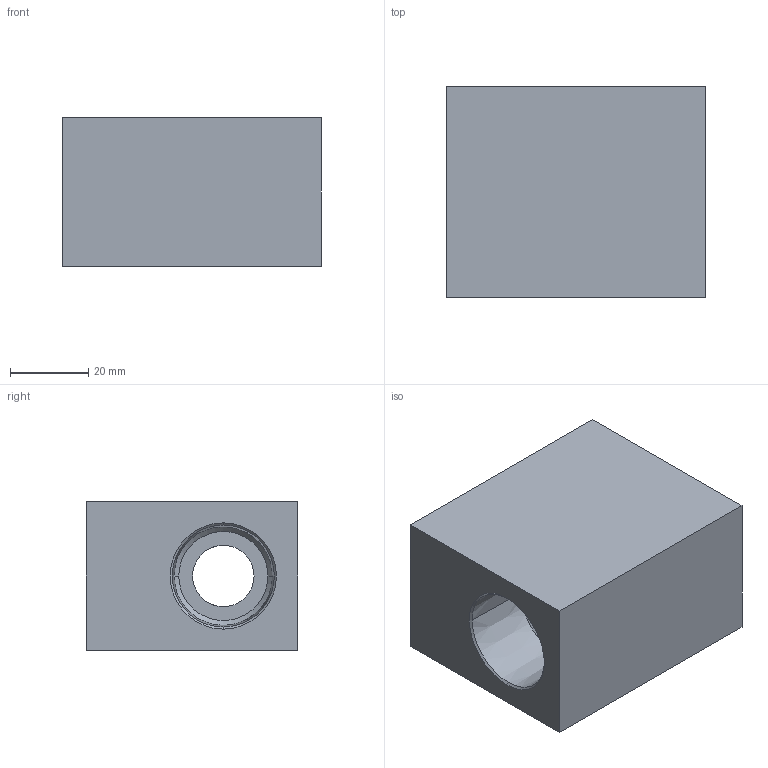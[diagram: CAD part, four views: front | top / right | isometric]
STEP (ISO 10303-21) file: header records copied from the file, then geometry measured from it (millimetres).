
FILE_DESCRIPTION (( 'STEP AP203' ), '1' );
FILE_NAME ('FTPTS12.STEP', '2026-06-26T01:46:13', ( 'USER' ), ( '' ), 'SwSTEP 2.0', 'SolidWorks 2023', '' );
FILE_SCHEMA (( 'CONFIG_CONTROL_DESIGN' ));
Length unit declared in the file: millimetre
Products named in the file (1): FTPTS12
Bounding box: 66 x 54 x 38 mm (x, y, z)
Volume: 97271.5 mm3; surface area: 21752.7 mm2
Topology: 1 solids, 1 shells, 37 faces, 87 edges, 54 vertices
Faces by surface type: cone 18, cylinder 10, plane 9
Entity records: 1152 total; most frequent: DIRECTION 201, CARTESIAN_POINT 191, ORIENTED_EDGE 174, EDGE_CURVE 87, AXIS2_PLACEMENT_3D 80, VERTEX_POINT 54, EDGE_LOOP 43, CIRCLE 42
